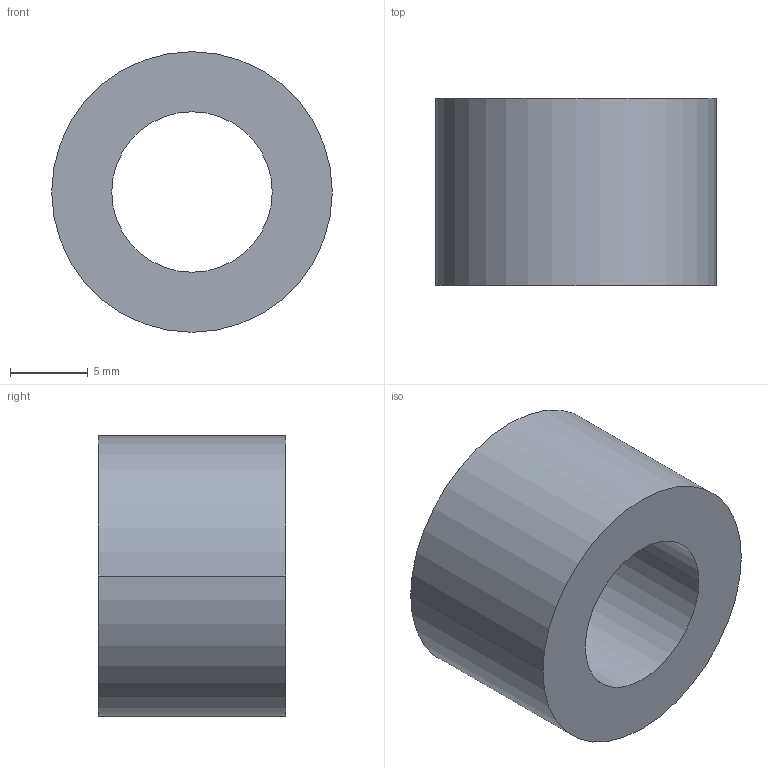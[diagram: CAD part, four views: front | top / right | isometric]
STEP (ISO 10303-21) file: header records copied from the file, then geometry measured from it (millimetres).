
FILE_DESCRIPTION (( 'STEP AP203' ), '1' );
FILE_NAME ('30800.WPP18E10.3.step', '2019-01-23T22:34:39', ( '' ), ( '' ), 'SwSTEP 2.0', 'SolidWorks 2017', '' );
FILE_SCHEMA (( 'CONFIG_CONTROL_DESIGN' ));
Length unit declared in the file: millimetre
Products named in the file (1): 30800.WPP18E10.3
Bounding box: 18 x 12 x 18 mm (x, y, z)
Volume: 2023.6 mm3; surface area: 1383.2 mm2
Topology: 1 solids, 1 shells, 8 faces, 16 edges, 10 vertices
Faces by surface type: cylinder 4, torus 2, plane 2
Entity records: 297 total; most frequent: DIRECTION 46, CARTESIAN_POINT 35, ORIENTED_EDGE 32, AXIS2_PLACEMENT_3D 21, EDGE_CURVE 16, CIRCLE 12, VERTEX_POINT 10, EDGE_LOOP 10
